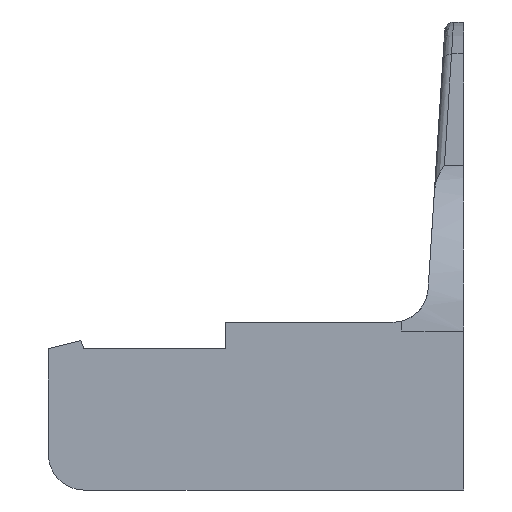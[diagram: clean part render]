
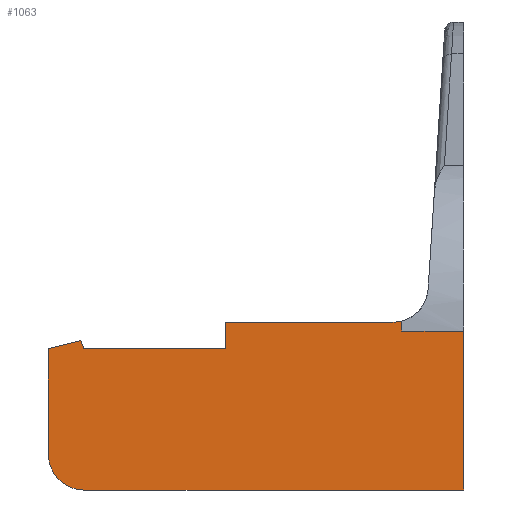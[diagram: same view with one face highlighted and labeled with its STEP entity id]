
A CAD part, left-side view. The second image highlights one B-rep face of the part: STEP entity #1063.
In plain terms, the highlighted planar face has unit normal (-1, 0, 0).
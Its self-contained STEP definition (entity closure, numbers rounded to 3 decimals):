
#60=CIRCLE('',#1139,2.);
#61=CIRCLE('',#1140,2.);
#118=ORIENTED_EDGE('',*,*,#438,.F.);
#119=ORIENTED_EDGE('',*,*,#439,.T.);
#120=ORIENTED_EDGE('',*,*,#440,.F.);
#121=ORIENTED_EDGE('',*,*,#441,.F.);
#122=ORIENTED_EDGE('',*,*,#442,.T.);
#123=ORIENTED_EDGE('',*,*,#443,.F.);
#124=ORIENTED_EDGE('',*,*,#444,.T.);
#125=ORIENTED_EDGE('',*,*,#445,.F.);
#126=ORIENTED_EDGE('',*,*,#446,.T.);
#127=ORIENTED_EDGE('',*,*,#447,.F.);
#128=ORIENTED_EDGE('',*,*,#448,.T.);
#129=ORIENTED_EDGE('',*,*,#449,.T.);
#438=EDGE_CURVE('',#597,#598,#700,.T.);
#439=EDGE_CURVE('',#597,#599,#60,.F.);
#440=EDGE_CURVE('',#600,#599,#701,.T.);
#441=EDGE_CURVE('',#601,#600,#702,.T.);
#442=EDGE_CURVE('',#601,#602,#703,.T.);
#443=EDGE_CURVE('',#603,#602,#704,.T.);
#444=EDGE_CURVE('',#603,#604,#61,.T.);
#445=EDGE_CURVE('',#605,#604,#705,.T.);
#446=EDGE_CURVE('',#605,#606,#706,.T.);
#447=EDGE_CURVE('',#607,#606,#707,.T.);
#448=EDGE_CURVE('',#607,#608,#708,.T.);
#449=EDGE_CURVE('',#608,#598,#709,.T.);
#597=VERTEX_POINT('',#1598);
#598=VERTEX_POINT('',#1599);
#599=VERTEX_POINT('',#1601);
#600=VERTEX_POINT('',#1603);
#601=VERTEX_POINT('',#1605);
#602=VERTEX_POINT('',#1607);
#603=VERTEX_POINT('',#1609);
#604=VERTEX_POINT('',#1611);
#605=VERTEX_POINT('',#1613);
#606=VERTEX_POINT('',#1615);
#607=VERTEX_POINT('',#1617);
#608=VERTEX_POINT('',#1619);
#700=LINE('',#1597,#817);
#701=LINE('',#1602,#818);
#702=LINE('',#1604,#819);
#703=LINE('',#1606,#820);
#704=LINE('',#1608,#821);
#705=LINE('',#1612,#822);
#706=LINE('',#1614,#823);
#707=LINE('',#1616,#824);
#708=LINE('',#1618,#825);
#709=LINE('',#1620,#826);
#817=VECTOR('',#1273,1000.);
#818=VECTOR('',#1276,1000.);
#819=VECTOR('',#1277,1000.);
#820=VECTOR('',#1278,1000.);
#821=VECTOR('',#1279,1000.);
#822=VECTOR('',#1282,1000.);
#823=VECTOR('',#1283,1000.);
#824=VECTOR('',#1284,1000.);
#825=VECTOR('',#1285,1000.);
#826=VECTOR('',#1286,1000.);
#911=EDGE_LOOP('',(#118,#119,#120,#121,#122,#123,#124,#125,#126,#127,#128,
#129));
#968=FACE_BOUND('',#911,.T.);
#1025=PLANE('',#1138);
#1063=ADVANCED_FACE('',(#968),#1025,.F.);
#1138=AXIS2_PLACEMENT_3D('',#1596,#1271,#1272);
#1139=AXIS2_PLACEMENT_3D('',#1600,#1274,#1275);
#1140=AXIS2_PLACEMENT_3D('',#1610,#1280,#1281);
#1271=DIRECTION('',(1.,0.,0.));
#1272=DIRECTION('',(0.,0.,-1.));
#1273=DIRECTION('',(0.,0.,1.));
#1274=DIRECTION('',(1.,0.,0.));
#1275=DIRECTION('',(0.,0.,-1.));
#1276=DIRECTION('',(0.,1.,0.));
#1277=DIRECTION('',(0.,0.,-1.));
#1278=DIRECTION('',(0.,1.,0.));
#1279=DIRECTION('',(0.,0.,-1.));
#1280=DIRECTION('',(1.,0.,0.));
#1281=DIRECTION('',(0.,0.,-1.));
#1282=DIRECTION('',(0.,-1.,0.));
#1283=DIRECTION('',(0.,0.,-1.));
#1284=DIRECTION('',(0.,-1.,0.));
#1285=DIRECTION('',(0.,0.342,0.94));
#1286=DIRECTION('',(0.,0.97,-0.243));
#1596=CARTESIAN_POINT('',(-100.,-12.,17.));
#1597=CARTESIAN_POINT('',(-100.,10.,-17.));
#1598=CARTESIAN_POINT('',(-100.,10.,-14.));
#1599=CARTESIAN_POINT('',(-100.,10.,-8.));
#1600=CARTESIAN_POINT('',(-100.,8.,-14.));
#1601=CARTESIAN_POINT('',(-100.,8.,-16.));
#1602=CARTESIAN_POINT('',(-100.,-13.5,-16.));
#1603=CARTESIAN_POINT('',(-100.,-13.5,-16.));
#1604=CARTESIAN_POINT('',(-100.,-13.5,-7.002));
#1605=CARTESIAN_POINT('',(-100.,-13.5,-7.002));
#1606=CARTESIAN_POINT('',(-100.,0.,-7.002));
#1607=CARTESIAN_POINT('',(-100.,-10.,-7.002));
#1608=CARTESIAN_POINT('',(-100.,-10.,-6.501));
#1609=CARTESIAN_POINT('',(-100.,-10.,-6.438));
#1610=CARTESIAN_POINT('',(-100.,-9.5,-4.501));
#1611=CARTESIAN_POINT('',(-100.,-9.5,-6.501));
#1612=CARTESIAN_POINT('',(-100.,-10.,-6.501));
#1613=CARTESIAN_POINT('',(-100.,0.,-6.501));
#1614=CARTESIAN_POINT('',(-100.,0.,17.));
#1615=CARTESIAN_POINT('',(-100.,0.,-8.));
#1616=CARTESIAN_POINT('',(-100.,10.,-8.));
#1617=CARTESIAN_POINT('',(-100.,8.,-8.));
#1618=CARTESIAN_POINT('',(-100.,8.,-8.));
#1619=CARTESIAN_POINT('',(-100.,8.167,-7.542));
#1620=CARTESIAN_POINT('',(-100.,8.,-7.5));
